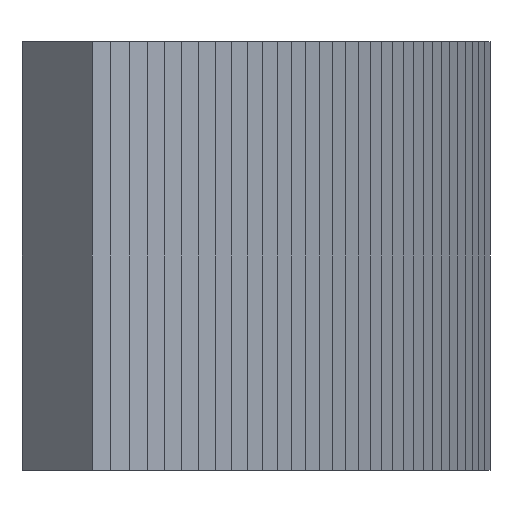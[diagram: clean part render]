
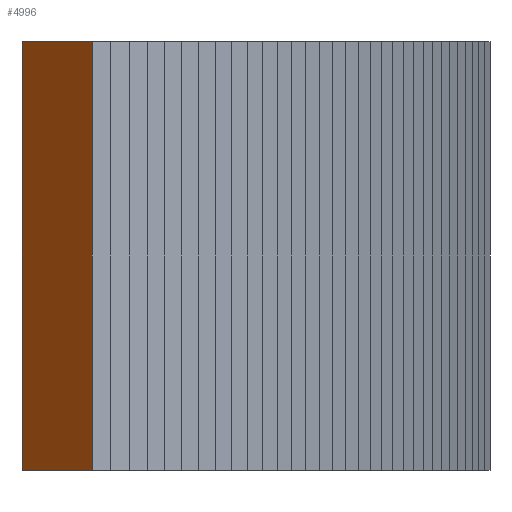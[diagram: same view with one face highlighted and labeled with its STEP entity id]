
A CAD part, front view. The second image highlights one B-rep face of the part: STEP entity #4996.
In plain terms, the highlighted planar face has unit normal (-0.743, -0.669, 0).
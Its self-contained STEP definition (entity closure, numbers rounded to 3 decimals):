
#21 = EDGE_CURVE('',#22,#24,#26,.T.);
#22 = VERTEX_POINT('',#23);
#23 = CARTESIAN_POINT('',(151.059,-17.835,53.));
#24 = VERTEX_POINT('',#25);
#25 = CARTESIAN_POINT('',(151.059,-17.835,61.));
#26 = SURFACE_CURVE('',#27,(#31,#43),.PCURVE_S1.);
#27 = LINE('',#28,#29);
#28 = CARTESIAN_POINT('',(151.059,-17.835,53.));
#29 = VECTOR('',#30,1.);
#30 = DIRECTION('',(0.,0.,1.));
#31 = PCURVE('',#32,#37);
#32 = PLANE('',#33);
#33 = AXIS2_PLACEMENT_3D('',#34,#35,#36);
#34 = CARTESIAN_POINT('',(151.059,-17.835,53.));
#35 = DIRECTION('',(-0.676,0.737,0.));
#36 = DIRECTION('',(0.737,0.676,0.));
#37 = DEFINITIONAL_REPRESENTATION('',(#38),#42);
#38 = LINE('',#39,#40);
#39 = CARTESIAN_POINT('',(0.,0.));
#40 = VECTOR('',#41,1.);
#41 = DIRECTION('',(0.,-1.));
#42 = ( GEOMETRIC_REPRESENTATION_CONTEXT(2) 
PARAMETRIC_REPRESENTATION_CONTEXT() REPRESENTATION_CONTEXT('2D SPACE',''
  ) );
#43 = PCURVE('',#44,#49);
#44 = PLANE('',#45);
#45 = AXIS2_PLACEMENT_3D('',#46,#47,#48);
#46 = CARTESIAN_POINT('',(149.748,-16.379,53.));
#47 = DIRECTION('',(0.743,0.669,-0.));
#48 = DIRECTION('',(0.669,-0.743,0.));
#49 = DEFINITIONAL_REPRESENTATION('',(#50),#54);
#50 = LINE('',#51,#52);
#51 = CARTESIAN_POINT('',(1.96,0.));
#52 = VECTOR('',#53,1.);
#53 = DIRECTION('',(0.,-1.));
#54 = ( GEOMETRIC_REPRESENTATION_CONTEXT(2) 
PARAMETRIC_REPRESENTATION_CONTEXT() REPRESENTATION_CONTEXT('2D SPACE',''
  ) );
#72 = PLANE('',#73);
#73 = AXIS2_PLACEMENT_3D('',#74,#75,#76);
#74 = CARTESIAN_POINT('',(154.563,-11.295,61.));
#75 = DIRECTION('',(0.,0.,1.));
#76 = DIRECTION('',(1.,0.,-0.));
#126 = PLANE('',#127);
#127 = AXIS2_PLACEMENT_3D('',#128,#129,#130);
#128 = CARTESIAN_POINT('',(154.563,-11.295,53.));
#129 = DIRECTION('',(0.,0.,1.));
#130 = DIRECTION('',(1.,0.,-0.));
#4893 = PLANE('',#4894);
#4894 = AXIS2_PLACEMENT_3D('',#4895,#4896,#4897);
#4895 = CARTESIAN_POINT('',(150.066,-16.086,53.));
#4896 = DIRECTION('',(0.676,-0.737,0.));
#4897 = DIRECTION('',(-0.737,-0.676,0.));
#4931 = VERTEX_POINT('',#4932);
#4932 = CARTESIAN_POINT('',(149.748,-16.379,61.));
#4953 = EDGE_CURVE('',#4954,#4931,#4956,.T.);
#4954 = VERTEX_POINT('',#4955);
#4955 = CARTESIAN_POINT('',(149.748,-16.379,53.));
#4956 = SURFACE_CURVE('',#4957,(#4961,#4968),.PCURVE_S1.);
#4957 = LINE('',#4958,#4959);
#4958 = CARTESIAN_POINT('',(149.748,-16.379,53.));
#4959 = VECTOR('',#4960,1.);
#4960 = DIRECTION('',(0.,0.,1.));
#4961 = PCURVE('',#4893,#4962);
#4962 = DEFINITIONAL_REPRESENTATION('',(#4963),#4967);
#4963 = LINE('',#4964,#4965);
#4964 = CARTESIAN_POINT('',(0.433,0.));
#4965 = VECTOR('',#4966,1.);
#4966 = DIRECTION('',(0.,-1.));
#4967 = ( GEOMETRIC_REPRESENTATION_CONTEXT(2) 
PARAMETRIC_REPRESENTATION_CONTEXT() REPRESENTATION_CONTEXT('2D SPACE',''
  ) );
#4968 = PCURVE('',#44,#4969);
#4969 = DEFINITIONAL_REPRESENTATION('',(#4970),#4974);
#4970 = LINE('',#4971,#4972);
#4971 = CARTESIAN_POINT('',(0.,0.));
#4972 = VECTOR('',#4973,1.);
#4973 = DIRECTION('',(0.,-1.));
#4974 = ( GEOMETRIC_REPRESENTATION_CONTEXT(2) 
PARAMETRIC_REPRESENTATION_CONTEXT() REPRESENTATION_CONTEXT('2D SPACE',''
  ) );
#4996 = ADVANCED_FACE('',(#4997),#44,.F.);
#4997 = FACE_BOUND('',#4998,.F.);
#4998 = EDGE_LOOP('',(#4999,#5000,#5021,#5022));
#4999 = ORIENTED_EDGE('',*,*,#4953,.T.);
#5000 = ORIENTED_EDGE('',*,*,#5001,.T.);
#5001 = EDGE_CURVE('',#4931,#24,#5002,.T.);
#5002 = SURFACE_CURVE('',#5003,(#5007,#5014),.PCURVE_S1.);
#5003 = LINE('',#5004,#5005);
#5004 = CARTESIAN_POINT('',(149.748,-16.379,61.));
#5005 = VECTOR('',#5006,1.);
#5006 = DIRECTION('',(0.669,-0.743,0.));
#5007 = PCURVE('',#44,#5008);
#5008 = DEFINITIONAL_REPRESENTATION('',(#5009),#5013);
#5009 = LINE('',#5010,#5011);
#5010 = CARTESIAN_POINT('',(0.,-8.));
#5011 = VECTOR('',#5012,1.);
#5012 = DIRECTION('',(1.,0.));
#5013 = ( GEOMETRIC_REPRESENTATION_CONTEXT(2) 
PARAMETRIC_REPRESENTATION_CONTEXT() REPRESENTATION_CONTEXT('2D SPACE',''
  ) );
#5014 = PCURVE('',#72,#5015);
#5015 = DEFINITIONAL_REPRESENTATION('',(#5016),#5020);
#5016 = LINE('',#5017,#5018);
#5017 = CARTESIAN_POINT('',(-4.815,-5.084));
#5018 = VECTOR('',#5019,1.);
#5019 = DIRECTION('',(0.669,-0.743));
#5020 = ( GEOMETRIC_REPRESENTATION_CONTEXT(2) 
PARAMETRIC_REPRESENTATION_CONTEXT() REPRESENTATION_CONTEXT('2D SPACE',''
  ) );
#5021 = ORIENTED_EDGE('',*,*,#21,.F.);
#5022 = ORIENTED_EDGE('',*,*,#5023,.F.);
#5023 = EDGE_CURVE('',#4954,#22,#5024,.T.);
#5024 = SURFACE_CURVE('',#5025,(#5029,#5036),.PCURVE_S1.);
#5025 = LINE('',#5026,#5027);
#5026 = CARTESIAN_POINT('',(149.748,-16.379,53.));
#5027 = VECTOR('',#5028,1.);
#5028 = DIRECTION('',(0.669,-0.743,0.));
#5029 = PCURVE('',#44,#5030);
#5030 = DEFINITIONAL_REPRESENTATION('',(#5031),#5035);
#5031 = LINE('',#5032,#5033);
#5032 = CARTESIAN_POINT('',(0.,0.));
#5033 = VECTOR('',#5034,1.);
#5034 = DIRECTION('',(1.,0.));
#5035 = ( GEOMETRIC_REPRESENTATION_CONTEXT(2) 
PARAMETRIC_REPRESENTATION_CONTEXT() REPRESENTATION_CONTEXT('2D SPACE',''
  ) );
#5036 = PCURVE('',#126,#5037);
#5037 = DEFINITIONAL_REPRESENTATION('',(#5038),#5042);
#5038 = LINE('',#5039,#5040);
#5039 = CARTESIAN_POINT('',(-4.815,-5.084));
#5040 = VECTOR('',#5041,1.);
#5041 = DIRECTION('',(0.669,-0.743));
#5042 = ( GEOMETRIC_REPRESENTATION_CONTEXT(2) 
PARAMETRIC_REPRESENTATION_CONTEXT() REPRESENTATION_CONTEXT('2D SPACE',''
  ) );
